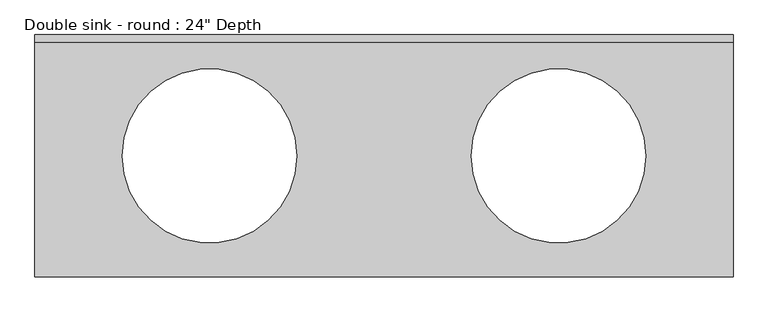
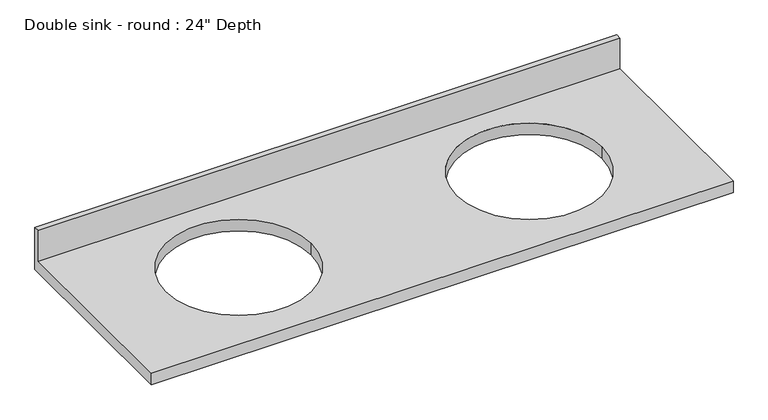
"""IFC4 building model written with IfcOpenShell, lengths in millimetres: furniture geometry."""

from ifc_helpers import new_model, si_unit, frame, origin, place, context, project, spatial, polyline, circle_curve, source, transform, mapped, element, save
from ifc_brep_helpers import plane_surface, revolved_surface, advanced_brep


def furniture_090a490d(model_context):
    return source(origin(), model_context, "Body", "AdvancedBrep", [
        advanced_brep(
        [(-1327.4622951, -635.0, 787.4), (501.3377049, -635.0, 787.4), (501.3377049, -19.05, 787.4), (-1327.4622951, -19.05, 787.4), (-641.6622951, -317.5, 787.4), (-1098.8622951, -317.5, 787.4), (272.7377049, -317.5, 787.4), (-184.4622951, -317.5, 787.4), (501.3377049, 0.0, 749.3), (501.3377049, -635.0, 749.3), (-1327.4622951, -635.0, 749.3), (-1327.4622951, 0.0, 749.3), (-1098.8622951, -317.5, 749.3), (-641.6622951, -317.5, 749.3), (-184.4622951, -317.5, 749.3), (272.7377049, -317.5, 749.3), (-1327.4622951, 0.0, 889.0), (501.3377049, 0.0, 889.0), (-1327.4622951, -19.05, 889.0), (501.3377049, -19.05, 889.0)],
        [
            (0, 1),
            (1, 2),
            (2, 3),
            (3, 0),
            (4, 5, circle_curve(frame((-870.2622951, -317.5, 787.4), z_axis=(0.0, 0.0, -1.0), x_axis=(1.0, 0.0, 0.0)), 228.6)),
            (5, 4, circle_curve(frame((-870.2622951, -317.5, 787.4), z_axis=(0.0, 0.0, -1.0), x_axis=(1.0, 0.0, 0.0)), 228.6)),
            (6, 7, circle_curve(frame((44.1377049, -317.5, 787.4), z_axis=(0.0, 0.0, -1.0), x_axis=(1.0, 0.0, 0.0)), 228.6)),
            (7, 6, circle_curve(frame((44.1377049, -317.5, 787.4), z_axis=(0.0, 0.0, -1.0), x_axis=(1.0, 0.0, 0.0)), 228.6)),
            (8, 9),
            (9, 10),
            (10, 11),
            (11, 8),
            (12, 13, circle_curve(frame((-870.2622951, -317.5, 749.3), z_axis=(0.0, 0.0, 1.0), x_axis=(1.0, 0.0, 0.0)), 228.6)),
            (13, 12, circle_curve(frame((-870.2622951, -317.5, 749.3), z_axis=(0.0, 0.0, 1.0), x_axis=(1.0, 0.0, 0.0)), 228.6)),
            (14, 15, circle_curve(frame((44.1377049, -317.5, 749.3), z_axis=(0.0, 0.0, 1.0), x_axis=(1.0, 0.0, 0.0)), 228.6)),
            (15, 14, circle_curve(frame((44.1377049, -317.5, 749.3), z_axis=(0.0, 0.0, 1.0), x_axis=(1.0, 0.0, 0.0)), 228.6)),
            (11, 16),
            (16, 17),
            (17, 8),
            (10, 0),
            (3, 18),
            (18, 16),
            (9, 1),
            (17, 19),
            (19, 2),
            (18, 19),
            (4, 13),
            (12, 5),
            (6, 15),
            (14, 7),
        ],
        [
            plane_surface(frame((-1327.4622951, 0.0, 787.4), z_axis=(0.0, 0.0, 1.0), x_axis=(-1.0, 0.0, 0.0))),
            plane_surface(frame((-1327.4622951, 0.0, 749.3), z_axis=(0.0, 0.0, -1.0), x_axis=(1.0, 0.0, 0.0))),
            plane_surface(frame((501.3377049, 0.0, 787.4), z_axis=(0.0, 1.0, 0.0), x_axis=(0.0, 0.0, -1.0))),
            plane_surface(frame((-1327.4622951, 0.0, 787.4), z_axis=(-1.0, 0.0, 0.0), x_axis=(0.0, 0.0, -1.0))),
            plane_surface(frame((-1327.4622951, -635.0, 787.4), z_axis=(0.0, -1.0, 0.0), x_axis=(0.0, 0.0, -1.0))),
            plane_surface(frame((501.3377049, -635.0, 787.4), z_axis=(1.0, 0.0, 0.0), x_axis=(0.0, 0.0, -1.0))),
            plane_surface(frame((-1327.4622951, 0.0, 889.0), z_axis=(0.0, 0.0, 1.0), x_axis=(0.0, -1.0, 0.0))),
            plane_surface(frame((-1327.4622951, -19.05, 889.0), z_axis=(0.0, -1.0, 0.0), x_axis=(0.0, 0.0, -1.0))),
            revolved_surface(polyline([(-641.6622950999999, -317.5, 787.4), (-641.6622950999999, -317.5, 749.3)]), (-870.2622951, -317.5, 749.3), (0.0, 0.0, 1.0)),
            revolved_surface(polyline([(272.7377049, -317.5, 787.4), (272.7377049, -317.5, 749.3)]), (44.1377049, -317.5, 749.3), (0.0, 0.0, 1.0)),
        ],
        [
            (0, [[1, 2, 3, 4], [5, 6], [7, 8]]),
            (1, [[9, 10, 11, 12], [13, 14], [15, 16]]),
            (2, [[-12, 17, 18, 19]]),
            (3, [[-11, 20, -4, 21, 22, -17]]),
            (4, [[-1, -20, -10, 23]]),
            (5, [[-9, -19, 24, 25, -2, -23]]),
            (6, [[-22, 26, -24, -18]]),
            (7, [[-26, -21, -3, -25]]),
            (8, [[27, -13, 28, -5]]),
            (8, [[-27, -6, -28, -14]]),
            (9, [[29, -15, 30, -7]]),
            (9, [[-29, -8, -30, -16]]),
        ],
    ),
    ])


if __name__ == "__main__":
    model = new_model("IFC4")
    model_context = context("Model", 3, world=origin())
    ifc_project = project(units=[si_unit("LENGTHUNIT", "METRE", prefix="MILLI")], contexts=[model_context])
    site = spatial("IfcSite", under=ifc_project)
    building = spatial("IfcBuilding", under=site)
    placement = place(None, origin())
    furniture_shape = furniture_090a490d(model_context)
    element("IfcFurniture", 1, ObjectType="Double sink - round : 24\" Depth", at=placement, inside=building, context=model_context, shape_type="MappedRepresentation", body=[
        mapped(furniture_shape, transform((0.0, 0.0, 0.0), x_axis=(1.0, 0.0, 0.0), y_axis=(0.0, 1.0, 0.0), z_axis=(0.0, 0.0, 1.0))),
    ])
    save(model, "model.ifc")
